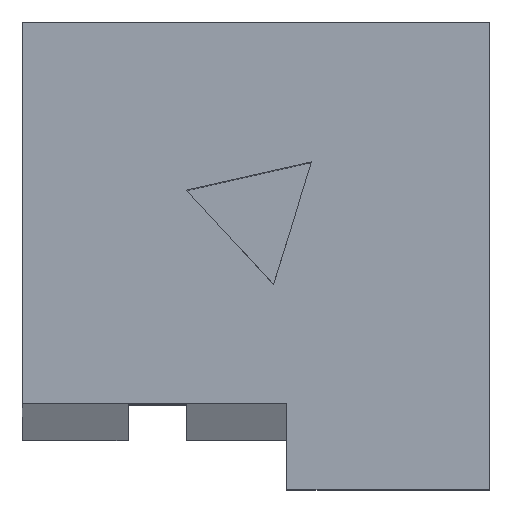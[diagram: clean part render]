
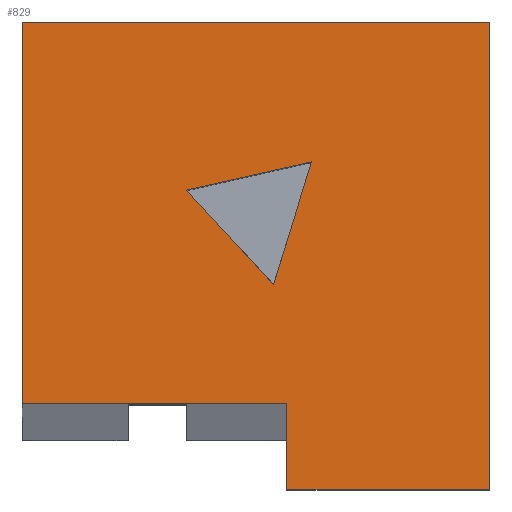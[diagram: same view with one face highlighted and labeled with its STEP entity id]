
A CAD part, top view. The second image highlights one B-rep face of the part: STEP entity #829.
In plain terms, the highlighted planar face has unit normal (0, 0, 1).
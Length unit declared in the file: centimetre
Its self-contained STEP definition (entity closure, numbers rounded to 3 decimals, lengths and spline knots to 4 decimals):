
#29 = ORIENTED_EDGE ( 'NONE', *, *, #475, .F. ) ;
#31 = ORIENTED_EDGE ( 'NONE', *, *, #788, .T. ) ;
#53 = CARTESIAN_POINT ( 'NONE',  ( 537.5492, 438.5553, 1000. ) ) ;
#59 = CARTESIAN_POINT ( 'NONE',  ( 1000., 1000., 1000. ) ) ;
#60 = DIRECTION ( 'NONE',  ( -1., 0., 0. ) ) ;
#66 = DIRECTION ( 'NONE',  ( 0., -1., 0. ) ) ;
#67 = VERTEX_POINT ( 'NONE', #405 ) ;
#82 = ORIENTED_EDGE ( 'NONE', *, *, #338, .F. ) ;
#84 = DIRECTION ( 'NONE',  ( 0., 0., 1. ) ) ;
#88 = VERTEX_POINT ( 'NONE', #572 ) ;
#129 = LINE ( 'NONE', #53, #924 ) ;
#130 = CARTESIAN_POINT ( 'NONE',  ( 1000., 1000., 1000. ) ) ;
#139 = VERTEX_POINT ( 'NONE', #550 ) ;
#179 = CARTESIAN_POINT ( 'NONE',  ( 0., 0., 1000. ) ) ;
#207 = AXIS2_PLACEMENT_3D ( 'NONE', #520, #84, #763 ) ;
#223 = LINE ( 'NONE', #517, #636 ) ;
#247 = VECTOR ( 'NONE', #477, 100. ) ;
#257 = EDGE_CURVE ( 'NONE', #873, #139, #396, .T. ) ;
#285 = CARTESIAN_POINT ( 'NONE',  ( 0., 1000., 1000. ) ) ;
#331 = EDGE_LOOP ( 'NONE', ( #806, #584, #851, #498, #31, #623 ) ) ;
#338 = EDGE_CURVE ( 'NONE', #642, #355, #129, .T. ) ;
#354 = DIRECTION ( 'NONE',  ( 0.297, 0.955, 0. ) ) ;
#355 = VERTEX_POINT ( 'NONE', #719 ) ;
#361 = DIRECTION ( 'NONE',  ( 0., 1., 0. ) ) ;
#396 = LINE ( 'NONE', #179, #247 ) ;
#400 = VERTEX_POINT ( 'NONE', #973 ) ;
#405 = CARTESIAN_POINT ( 'NONE',  ( 0., 182.9952, 1000. ) ) ;
#414 = EDGE_CURVE ( 'NONE', #139, #784, #579, .T. ) ;
#442 = DIRECTION ( 'NONE',  ( 0.679, -0.734, 0. ) ) ;
#475 = EDGE_CURVE ( 'NONE', #355, #400, #918, .T. ) ;
#477 = DIRECTION ( 'NONE',  ( 1., 0., 0. ) ) ;
#479 = LINE ( 'NONE', #742, #867 ) ;
#495 = CARTESIAN_POINT ( 'NONE',  ( 566.1371, 182.9952, 1000. ) ) ;
#498 = ORIENTED_EDGE ( 'NONE', *, *, #414, .T. ) ;
#505 = VECTOR ( 'NONE', #518, 100. ) ;
#507 = CARTESIAN_POINT ( 'NONE',  ( 537.5492, 438.5553, 1000. ) ) ;
#512 = FACE_OUTER_BOUND ( 'NONE', #331, .T. ) ;
#517 = CARTESIAN_POINT ( 'NONE',  ( 351.2773, 640.126, 1000. ) ) ;
#518 = DIRECTION ( 'NONE',  ( -0.975, -0.221, 0. ) ) ;
#520 = CARTESIAN_POINT ( 'NONE',  ( 0., 0., 1000. ) ) ;
#550 = CARTESIAN_POINT ( 'NONE',  ( 1000., 0., 1000. ) ) ;
#572 = CARTESIAN_POINT ( 'NONE',  ( 566.1371, 182.9952, 1000. ) ) ;
#579 = LINE ( 'NONE', #59, #950 ) ;
#580 = DIRECTION ( 'NONE',  ( -1., 0., 0. ) ) ;
#583 = EDGE_CURVE ( 'NONE', #612, #67, #902, .T. ) ;
#584 = ORIENTED_EDGE ( 'NONE', *, *, #854, .F. ) ;
#591 = CARTESIAN_POINT ( 'NONE',  ( 566.1371, 0., 1000. ) ) ;
#612 = VERTEX_POINT ( 'NONE', #285 ) ;
#623 = ORIENTED_EDGE ( 'NONE', *, *, #583, .T. ) ;
#627 = EDGE_CURVE ( 'NONE', #400, #642, #223, .T. ) ;
#636 = VECTOR ( 'NONE', #442, 100. ) ;
#642 = VERTEX_POINT ( 'NONE', #507 ) ;
#669 = EDGE_LOOP ( 'NONE', ( #29, #82, #744 ) ) ;
#672 = CARTESIAN_POINT ( 'NONE',  ( 0., 1000., 1000. ) ) ;
#680 = CARTESIAN_POINT ( 'NONE',  ( 618.9786, 700.6569, 1000. ) ) ;
#688 = CARTESIAN_POINT ( 'NONE',  ( 566.1371, 0., 1000. ) ) ;
#719 = CARTESIAN_POINT ( 'NONE',  ( 618.9786, 700.6569, 1000. ) ) ;
#723 = EDGE_CURVE ( 'NONE', #88, #67, #804, .T. ) ;
#742 = CARTESIAN_POINT ( 'NONE',  ( 0., 1000., 1000. ) ) ;
#744 = ORIENTED_EDGE ( 'NONE', *, *, #627, .F. ) ;
#763 = DIRECTION ( 'NONE',  ( 1., 0., 0. ) ) ;
#765 = VECTOR ( 'NONE', #580, 100. ) ;
#778 = VECTOR ( 'NONE', #361, 100. ) ;
#784 = VERTEX_POINT ( 'NONE', #130 ) ;
#788 = EDGE_CURVE ( 'NONE', #784, #612, #479, .T. ) ;
#801 = DIRECTION ( 'NONE',  ( 0., 1., 0. ) ) ;
#804 = LINE ( 'NONE', #495, #765 ) ;
#806 = ORIENTED_EDGE ( 'NONE', *, *, #723, .F. ) ;
#829 = ADVANCED_FACE ( 'NONE', ( #512, #927 ), #916, .T. ) ;
#843 = LINE ( 'NONE', #688, #778 ) ;
#851 = ORIENTED_EDGE ( 'NONE', *, *, #257, .T. ) ;
#854 = EDGE_CURVE ( 'NONE', #873, #88, #843, .T. ) ;
#867 = VECTOR ( 'NONE', #60, 100. ) ;
#873 = VERTEX_POINT ( 'NONE', #591 ) ;
#902 = LINE ( 'NONE', #672, #909 ) ;
#909 = VECTOR ( 'NONE', #66, 100. ) ;
#916 = PLANE ( 'NONE',  #207 ) ;
#918 = LINE ( 'NONE', #680, #505 ) ;
#924 = VECTOR ( 'NONE', #354, 100. ) ;
#927 = FACE_BOUND ( 'NONE', #669, .T. ) ;
#950 = VECTOR ( 'NONE', #801, 100. ) ;
#973 = CARTESIAN_POINT ( 'NONE',  ( 351.2773, 640.126, 1000. ) ) ;
